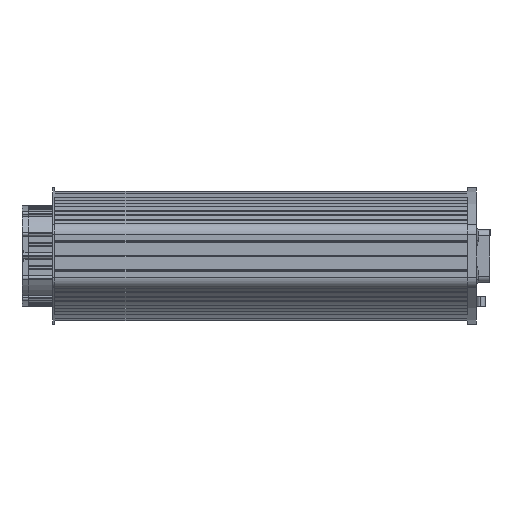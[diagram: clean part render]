
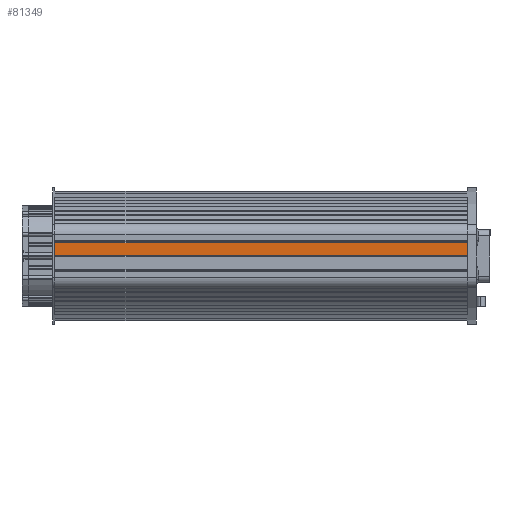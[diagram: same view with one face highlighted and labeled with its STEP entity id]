
A CAD part, left-side view. The second image highlights one B-rep face of the part: STEP entity #81349.
In plain terms, the highlighted planar face has unit normal (-1, 0, 0).
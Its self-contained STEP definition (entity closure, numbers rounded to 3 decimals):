
#3451 = LINE ( 'NONE', #57472, #24671 ) ;
#10341 = ORIENTED_EDGE ( 'NONE', *, *, #80641, .T. ) ;
#12364 = VECTOR ( 'NONE', #53834, 1000. ) ;
#14617 = CARTESIAN_POINT ( 'NONE',  ( -162.5, 0.731, 363. ) ) ;
#16380 = DIRECTION ( 'NONE',  ( 0., 1., 0. ) ) ;
#24671 = VECTOR ( 'NONE', #16380, 1000. ) ;
#26226 = ORIENTED_EDGE ( 'NONE', *, *, #57939, .F. ) ;
#42704 = FACE_OUTER_BOUND ( 'NONE', #75236, .T. ) ;
#43747 = VECTOR ( 'NONE', #55585, 1000. ) ;
#49972 = VERTEX_POINT ( 'NONE', #66770 ) ;
#50567 = CARTESIAN_POINT ( 'NONE',  ( -162.5, 11.769, 363. ) ) ;
#53834 = DIRECTION ( 'NONE',  ( 0., 0., -1. ) ) ;
#54037 = ORIENTED_EDGE ( 'NONE', *, *, #64943, .T. ) ;
#55585 = DIRECTION ( 'NONE',  ( 0., 0., -1. ) ) ;
#57472 = CARTESIAN_POINT ( 'NONE',  ( -162.5, 0., 0. ) ) ;
#57939 = EDGE_CURVE ( 'NONE', #91324, #49972, #76316, .T. ) ;
#61217 = ORIENTED_EDGE ( 'NONE', *, *, #82768, .F. ) ;
#63745 = CARTESIAN_POINT ( 'NONE',  ( -162.5, 11.769, 363. ) ) ;
#64943 = EDGE_CURVE ( 'NONE', #91324, #79191, #90781, .T. ) ;
#66770 = CARTESIAN_POINT ( 'NONE',  ( -162.5, 0.731, 0. ) ) ;
#67651 = DIRECTION ( 'NONE',  ( 0., 0., 1. ) ) ;
#67654 = CARTESIAN_POINT ( 'NONE',  ( -162.5, 11.769, 0. ) ) ;
#68818 = VECTOR ( 'NONE', #88749, 1000. ) ;
#72319 = VERTEX_POINT ( 'NONE', #67654 ) ;
#72788 = PLANE ( 'NONE',  #78073 ) ;
#75236 = EDGE_LOOP ( 'NONE', ( #61217, #26226, #54037, #10341 ) ) ;
#76316 = LINE ( 'NONE', #14617, #12364 ) ;
#76816 = DIRECTION ( 'NONE',  ( -1., 0., 0. ) ) ;
#78073 = AXIS2_PLACEMENT_3D ( 'NONE', #99760, #76816, #67651 ) ;
#79191 = VERTEX_POINT ( 'NONE', #50567 ) ;
#80641 = EDGE_CURVE ( 'NONE', #79191, #72319, #88195, .T. ) ;
#81349 = ADVANCED_FACE ( 'NONE', ( #42704 ), #72788, .T. ) ;
#82616 = CARTESIAN_POINT ( 'NONE',  ( -162.5, 0., 363. ) ) ;
#82768 = EDGE_CURVE ( 'NONE', #49972, #72319, #3451, .T. ) ;
#88195 = LINE ( 'NONE', #63745, #43747 ) ;
#88749 = DIRECTION ( 'NONE',  ( 0., 1., 0. ) ) ;
#90781 = LINE ( 'NONE', #82616, #68818 ) ;
#91324 = VERTEX_POINT ( 'NONE', #94273 ) ;
#94273 = CARTESIAN_POINT ( 'NONE',  ( -162.5, 0.731, 363. ) ) ;
#99760 = CARTESIAN_POINT ( 'NONE',  ( -162.5, 0., 363. ) ) ;
